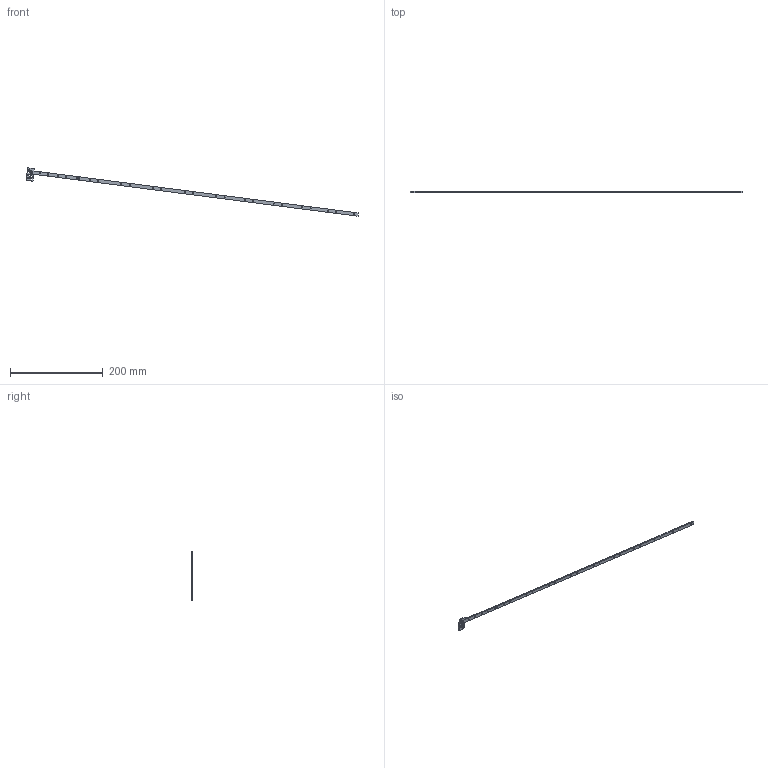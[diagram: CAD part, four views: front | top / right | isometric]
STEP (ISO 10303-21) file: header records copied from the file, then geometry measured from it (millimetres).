
FILE_DESCRIPTION((''),'2;1');
FILE_NAME('0000186953','2024-02-23T16:50:46',('Wyndorps'),(''),'CREO PARAMETRIC BY PTC INC, 2022484','CREO PARAMETRIC BY PTC INC, 2022484','');
FILE_SCHEMA(('CONFIG_CONTROL_DESIGN'));
Length unit declared in the file: millimetre
Products named in the file (1): 0000186953
Bounding box: 715.06 x 3 x 104.06 mm (x, y, z)
Volume: 15340.1 mm3; surface area: 15704.5 mm2
Topology: 1 solids, 1 shells, 110 faces, 324 edges, 216 vertices
Faces by surface type: plane 64, cylinder 46
Entity records: 3850 total; most frequent: CARTESIAN_POINT 650, ORIENTED_EDGE 648, DIRECTION 636, EDGE_CURVE 324, VECTOR 232, LINE 232, VERTEX_POINT 216, AXIS2_PLACEMENT_3D 202
